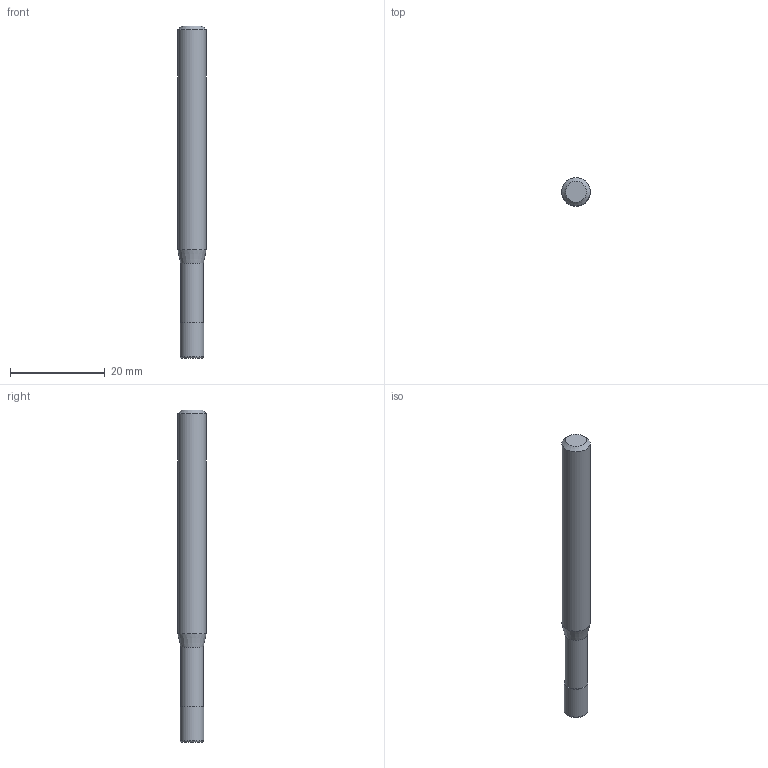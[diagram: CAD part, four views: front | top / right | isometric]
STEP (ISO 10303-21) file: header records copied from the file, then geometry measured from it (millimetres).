
FILE_DESCRIPTION((''),'2;1');
FILE_NAME('C:\Users\nsx150\AppData\Local\Temp\Mastercam 2021\17T8Q8S9EB\TEMP.step','2021-04-21T14:40:24',(''),(''),'STEP Write','Mastercam 2021 ... CNC Software, Inc.','');
FILE_SCHEMA(('AUTOMOTIVE_DESIGN'));
Length unit declared in the file: millimetre
Products named in the file (1): None
Bounding box: 6 x 6 x 70 mm (x, y, z)
Volume: 1766.5 mm3; surface area: 1318.4 mm2
Topology: 2 solids, 2 shells, 10 faces, 14 edges, 8 vertices
Faces by surface type: plane 4, cylinder 3, cone 2, torus 1
Full cylindrical faces by diameter (mm): 4.8 x1, 5 x1, 6 x1
Entity records: 232 total; most frequent: DIRECTION 40, CARTESIAN_POINT 28, AXIS2_PLACEMENT_3D 20, ORIENTED_EDGE 16, EDGE_LOOP 16, STYLED_ITEM 13, ADVANCED_FACE 10, FACE_BOUND 10
